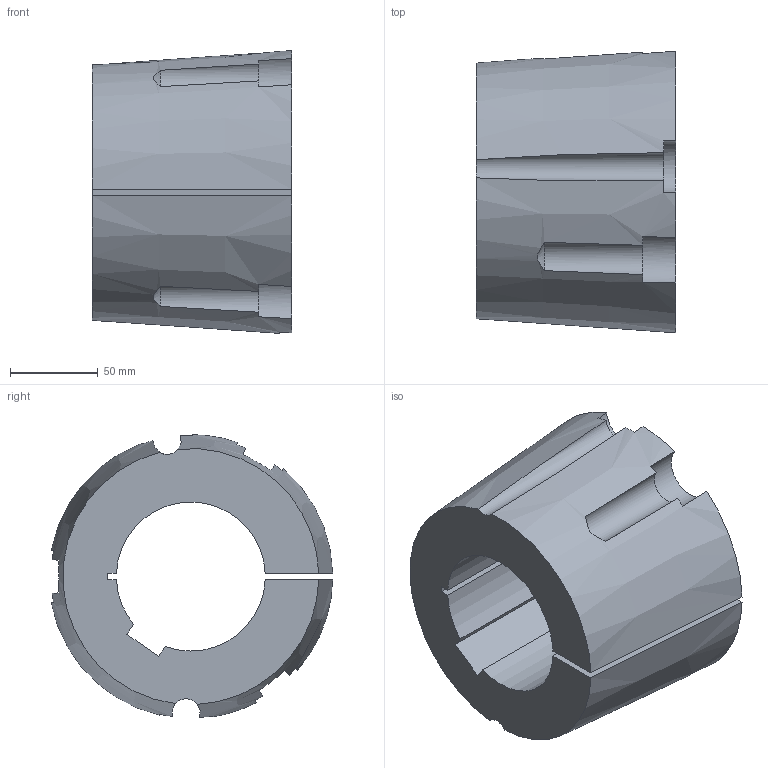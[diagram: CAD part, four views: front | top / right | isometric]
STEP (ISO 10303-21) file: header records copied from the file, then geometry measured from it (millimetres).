
FILE_DESCRIPTION( ( 'STEP AP203' ), '1' );
FILE_NAME( 'D:/export/antriebselemente/spannbuchsen_und_spannsaetze/taper-spannbuchsen_1008_bis_5050/taper-spannbuchsen_62251585Isometric_255.stp', '2018-12-11T11:11:36', ( '' ), ( '' ), ' ', 'PARTsolutions', ' ' );
FILE_SCHEMA( ( 'CONFIG_CONTROL_DESIGN' ) );
Length unit declared in the file: millimetre
Products named in the file (1): _taper-spannbuchsen_62251585
Bounding box: 114 x 160.6 x 161.35 mm (x, y, z)
Volume: 1378965.1 mm3; surface area: 124470.4 mm2
Topology: 1 solids, 1 shells, 34 faces, 96 edges, 64 vertices
Faces by surface type: plane 15, cylinder 13, cone 6
Entity records: 1314 total; most frequent: CARTESIAN_POINT 390, ORIENTED_EDGE 192, DIRECTION 186, EDGE_CURVE 96, AXIS2_PLACEMENT_3D 80, VERTEX_POINT 64, CIRCLE 45, ADVANCED_FACE 34
